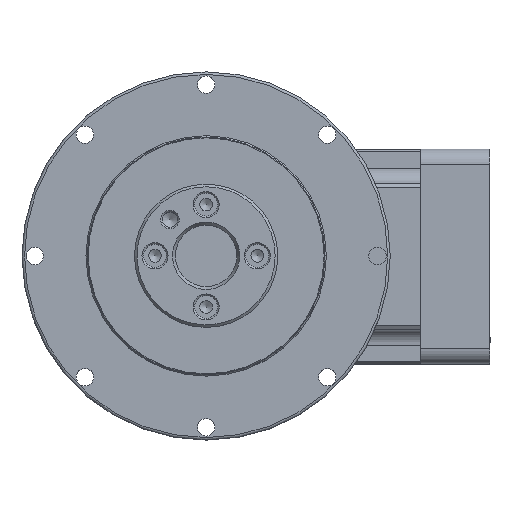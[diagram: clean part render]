
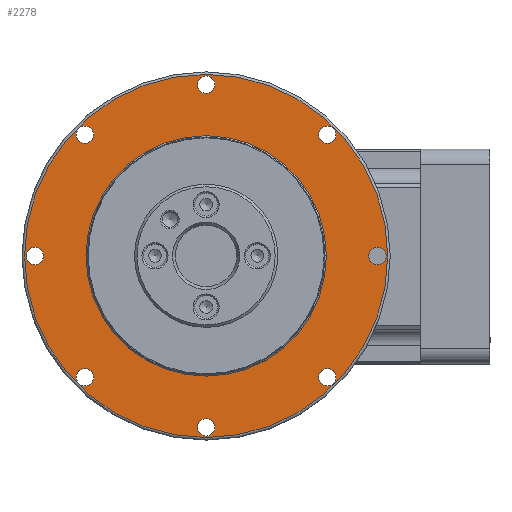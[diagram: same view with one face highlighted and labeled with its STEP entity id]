
A CAD part, top view. The second image highlights one B-rep face of the part: STEP entity #2278.
In plain terms, the highlighted planar face has unit normal (0, 0, 1).
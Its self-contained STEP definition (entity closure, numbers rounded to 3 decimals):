
#2156=CARTESIAN_POINT('',(35.5,0.,4.0));
#2157=VERTEX_POINT('',#2156);
#2158=CARTESIAN_POINT('',(0.0,0.0,4.0));
#2159=DIRECTION('',(0.0,0.0,-1.0));
#2160=DIRECTION('',(-1.0,0.0,0.0));
#2161=AXIS2_PLACEMENT_3D('',#2158,#2159,#2160);
#2162=CIRCLE('',#2161,35.5);
#2163=EDGE_CURVE('',#2157,#2157,#2162,.T.);
#2171=CARTESIAN_POINT('',(0.0,0.0,4.0));
#2172=DIRECTION('',(0.0,0.0,-1.0));
#2173=DIRECTION('',(-1.0,0.0,0.0));
#2174=AXIS2_PLACEMENT_3D('',#2171,#2172,#2173);
#2175=PLANE('',#2174);
#2176=ORIENTED_EDGE('',*,*,#2163,.F.);
#2177=EDGE_LOOP('',(#2176));
#2178=FACE_OUTER_BOUND('',#2177,.T.);
#2179=CARTESIAN_POINT('',(23.5,0.,4.0));
#2180=VERTEX_POINT('',#2179);
#2181=CARTESIAN_POINT('',(0.0,0.0,4.0));
#2182=DIRECTION('',(0.0,0.0,-1.0));
#2183=DIRECTION('',(-1.0,0.0,0.0));
#2184=AXIS2_PLACEMENT_3D('',#2181,#2182,#2183);
#2185=CIRCLE('',#2184,23.5);
#2186=EDGE_CURVE('',#2180,#2180,#2185,.T.);
#2187=ORIENTED_EDGE('',*,*,#2186,.T.);
#2188=EDGE_LOOP('',(#2187));
#2189=FACE_BOUND('',#2188,.T.);
#2190=CARTESIAN_POINT('',(1.7,33.5,4.0));
#2191=VERTEX_POINT('',#2190);
#2192=CARTESIAN_POINT('',(0.0,33.5,4.0));
#2193=DIRECTION('',(0.0,0.0,-1.0));
#2194=DIRECTION('',(-1.0,0.0,0.0));
#2195=AXIS2_PLACEMENT_3D('',#2192,#2193,#2194);
#2196=CIRCLE('',#2195,1.7);
#2197=EDGE_CURVE('',#2191,#2191,#2196,.T.);
#2198=ORIENTED_EDGE('',*,*,#2197,.T.);
#2199=EDGE_LOOP('',(#2198));
#2200=FACE_BOUND('',#2199,.T.);
#2201=CARTESIAN_POINT('',(-22.486,24.89,4.0));
#2202=VERTEX_POINT('',#2201);
#2203=CARTESIAN_POINT('',(-23.688,23.688,4.0));
#2204=DIRECTION('',(0.0,0.0,-1.0));
#2205=DIRECTION('',(-0.707,-0.707,0.0));
#2206=AXIS2_PLACEMENT_3D('',#2203,#2204,#2205);
#2207=CIRCLE('',#2206,1.7);
#2208=EDGE_CURVE('',#2202,#2202,#2207,.T.);
#2209=ORIENTED_EDGE('',*,*,#2208,.T.);
#2210=EDGE_LOOP('',(#2209));
#2211=FACE_BOUND('',#2210,.T.);
#2212=CARTESIAN_POINT('',(-33.5,1.7,4.0));
#2213=VERTEX_POINT('',#2212);
#2214=CARTESIAN_POINT('',(-33.5,0.0,4.0));
#2215=DIRECTION('',(0.0,0.0,-1.0));
#2216=DIRECTION('',(0.0,-1.0,0.0));
#2217=AXIS2_PLACEMENT_3D('',#2214,#2215,#2216);
#2218=CIRCLE('',#2217,1.7);
#2219=EDGE_CURVE('',#2213,#2213,#2218,.T.);
#2220=ORIENTED_EDGE('',*,*,#2219,.T.);
#2221=EDGE_LOOP('',(#2220));
#2222=FACE_BOUND('',#2221,.T.);
#2223=CARTESIAN_POINT('',(-24.89,-22.486,4.0));
#2224=VERTEX_POINT('',#2223);
#2225=CARTESIAN_POINT('',(-23.688,-23.688,4.0));
#2226=DIRECTION('',(0.0,0.0,-1.0));
#2227=DIRECTION('',(0.707,-0.707,0.0));
#2228=AXIS2_PLACEMENT_3D('',#2225,#2226,#2227);
#2229=CIRCLE('',#2228,1.7);
#2230=EDGE_CURVE('',#2224,#2224,#2229,.T.);
#2231=ORIENTED_EDGE('',*,*,#2230,.T.);
#2232=EDGE_LOOP('',(#2231));
#2233=FACE_BOUND('',#2232,.T.);
#2234=CARTESIAN_POINT('',(-1.7,-33.5,4.0));
#2235=VERTEX_POINT('',#2234);
#2236=CARTESIAN_POINT('',(0.,-33.5,4.0));
#2237=DIRECTION('',(0.0,0.0,-1.0));
#2238=DIRECTION('',(1.0,0.0,0.0));
#2239=AXIS2_PLACEMENT_3D('',#2236,#2237,#2238);
#2240=CIRCLE('',#2239,1.7);
#2241=EDGE_CURVE('',#2235,#2235,#2240,.T.);
#2242=ORIENTED_EDGE('',*,*,#2241,.T.);
#2243=EDGE_LOOP('',(#2242));
#2244=FACE_BOUND('',#2243,.T.);
#2245=CARTESIAN_POINT('',(22.486,-24.89,4.0));
#2246=VERTEX_POINT('',#2245);
#2247=CARTESIAN_POINT('',(23.688,-23.688,4.0));
#2248=DIRECTION('',(0.0,0.0,-1.));
#2249=DIRECTION('',(0.707,0.707,0.0));
#2250=AXIS2_PLACEMENT_3D('',#2247,#2248,#2249);
#2251=CIRCLE('',#2250,1.7);
#2252=EDGE_CURVE('',#2246,#2246,#2251,.T.);
#2253=ORIENTED_EDGE('',*,*,#2252,.T.);
#2254=EDGE_LOOP('',(#2253));
#2255=FACE_BOUND('',#2254,.T.);
#2256=CARTESIAN_POINT('',(33.5,-1.7,4.0));
#2257=VERTEX_POINT('',#2256);
#2258=CARTESIAN_POINT('',(33.5,0.,4.0));
#2259=DIRECTION('',(0.0,0.0,-1.0));
#2260=DIRECTION('',(0.0,1.0,0.0));
#2261=AXIS2_PLACEMENT_3D('',#2258,#2259,#2260);
#2262=CIRCLE('',#2261,1.7);
#2263=EDGE_CURVE('',#2257,#2257,#2262,.T.);
#2264=ORIENTED_EDGE('',*,*,#2263,.T.);
#2265=EDGE_LOOP('',(#2264));
#2266=FACE_BOUND('',#2265,.T.);
#2267=CARTESIAN_POINT('',(24.89,22.486,4.0));
#2268=VERTEX_POINT('',#2267);
#2269=CARTESIAN_POINT('',(23.688,23.688,4.0));
#2270=DIRECTION('',(0.0,0.0,-1.0));
#2271=DIRECTION('',(-0.707,0.707,0.0));
#2272=AXIS2_PLACEMENT_3D('',#2269,#2270,#2271);
#2273=CIRCLE('',#2272,1.7);
#2274=EDGE_CURVE('',#2268,#2268,#2273,.T.);
#2275=ORIENTED_EDGE('',*,*,#2274,.T.);
#2276=EDGE_LOOP('',(#2275));
#2277=FACE_BOUND('',#2276,.T.);
#2278=ADVANCED_FACE('',(#2178,#2189,#2200,#2211,#2222,#2233,#2244,#2255,#2266,#2277),#2175,.F.);
